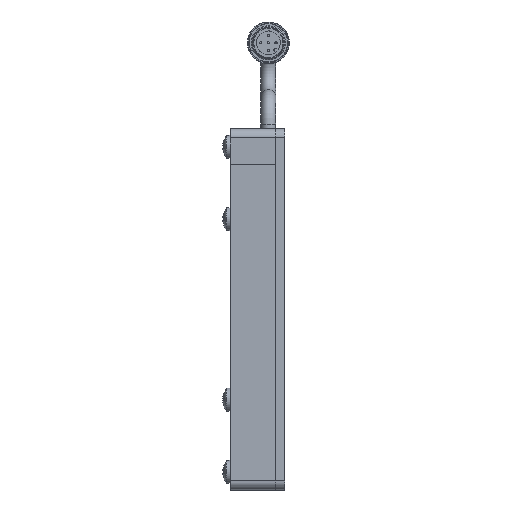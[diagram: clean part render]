
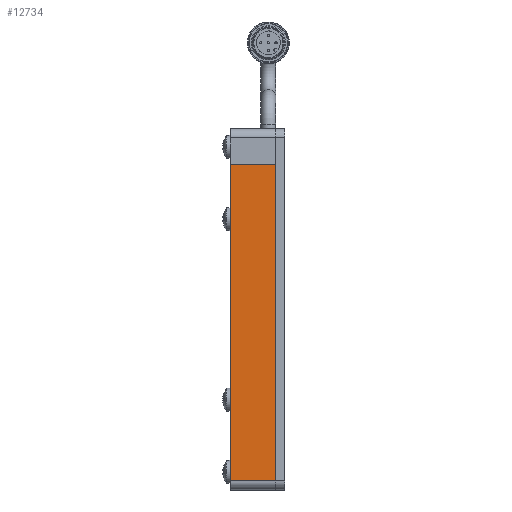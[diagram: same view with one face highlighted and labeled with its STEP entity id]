
A CAD part, left-side view. The second image highlights one B-rep face of the part: STEP entity #12734.
In plain terms, the highlighted planar face has unit normal (-1, 0, 0) as drawn and (0, 0, -1) by its records, which use the part's own axes.
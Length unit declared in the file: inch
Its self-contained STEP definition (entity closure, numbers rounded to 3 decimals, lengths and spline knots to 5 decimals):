
#332 = CARTESIAN_POINT ( 'NONE',  ( 2.375, 0.3125, -0.25 ) ) ;
#451 = LINE ( 'NONE', #14361, #11211 ) ;
#572 = CARTESIAN_POINT ( 'NONE',  ( -2.5, 0.3125, -0.25 ) ) ;
#1768 = DIRECTION ( 'NONE',  ( 1., 0., 0. ) ) ;
#2271 = VECTOR ( 'NONE', #8863, 39.37008 ) ;
#2628 = ORIENTED_EDGE ( 'NONE', *, *, #4680, .F. ) ;
#3119 = CARTESIAN_POINT ( 'NONE',  ( -2.5, 0.3125, -0.25 ) ) ;
#3330 = CARTESIAN_POINT ( 'NONE',  ( -2., -0.3125, -0.25 ) ) ;
#3682 = ORIENTED_EDGE ( 'NONE', *, *, #11151, .T. ) ;
#4680 = EDGE_CURVE ( 'NONE', #17265, #14744, #7556, .T. ) ;
#5188 = CARTESIAN_POINT ( 'NONE',  ( 2.375, 0.3125, -0.25 ) ) ;
#5337 = ORIENTED_EDGE ( 'NONE', *, *, #10581, .T. ) ;
#5526 = CARTESIAN_POINT ( 'NONE',  ( 2.375, -0.3125, -0.25 ) ) ;
#5714 = VERTEX_POINT ( 'NONE', #5526 ) ;
#6311 = VECTOR ( 'NONE', #13474, 39.37008 ) ;
#6735 = VECTOR ( 'NONE', #9004, 39.37008 ) ;
#6802 = LINE ( 'NONE', #5188, #6311 ) ;
#7025 = VERTEX_POINT ( 'NONE', #16903 ) ;
#7556 = LINE ( 'NONE', #572, #6735 ) ;
#8820 = FACE_OUTER_BOUND ( 'NONE', #11651, .T. ) ;
#8863 = DIRECTION ( 'NONE',  ( 0., 1., 0. ) ) ;
#8914 = DIRECTION ( 'NONE',  ( 0., 0., 1. ) ) ;
#9004 = DIRECTION ( 'NONE',  ( -1., 0., 0. ) ) ;
#9306 = EDGE_CURVE ( 'NONE', #5714, #7025, #451, .T. ) ;
#10339 = DIRECTION ( 'NONE',  ( -1., 0., 0. ) ) ;
#10423 = AXIS2_PLACEMENT_3D ( 'NONE', #3119, #8914, #1768 ) ;
#10581 = EDGE_CURVE ( 'NONE', #7025, #14744, #15777, .T. ) ;
#11151 = EDGE_CURVE ( 'NONE', #17265, #5714, #6802, .T. ) ;
#11211 = VECTOR ( 'NONE', #10339, 39.37008 ) ;
#11651 = EDGE_LOOP ( 'NONE', ( #2628, #3682, #13430, #5337 ) ) ;
#12734 = ADVANCED_FACE ( 'NONE', ( #8820 ), #14218, .F. ) ;
#13430 = ORIENTED_EDGE ( 'NONE', *, *, #9306, .T. ) ;
#13474 = DIRECTION ( 'NONE',  ( 0., -1., 0. ) ) ;
#13568 = CARTESIAN_POINT ( 'NONE',  ( -2., 0.3125, -0.25 ) ) ;
#14218 = PLANE ( 'NONE',  #10423 ) ;
#14361 = CARTESIAN_POINT ( 'NONE',  ( -2.5, -0.3125, -0.25 ) ) ;
#14744 = VERTEX_POINT ( 'NONE', #13568 ) ;
#15777 = LINE ( 'NONE', #3330, #2271 ) ;
#16903 = CARTESIAN_POINT ( 'NONE',  ( -2., -0.3125, -0.25 ) ) ;
#17265 = VERTEX_POINT ( 'NONE', #332 ) ;
